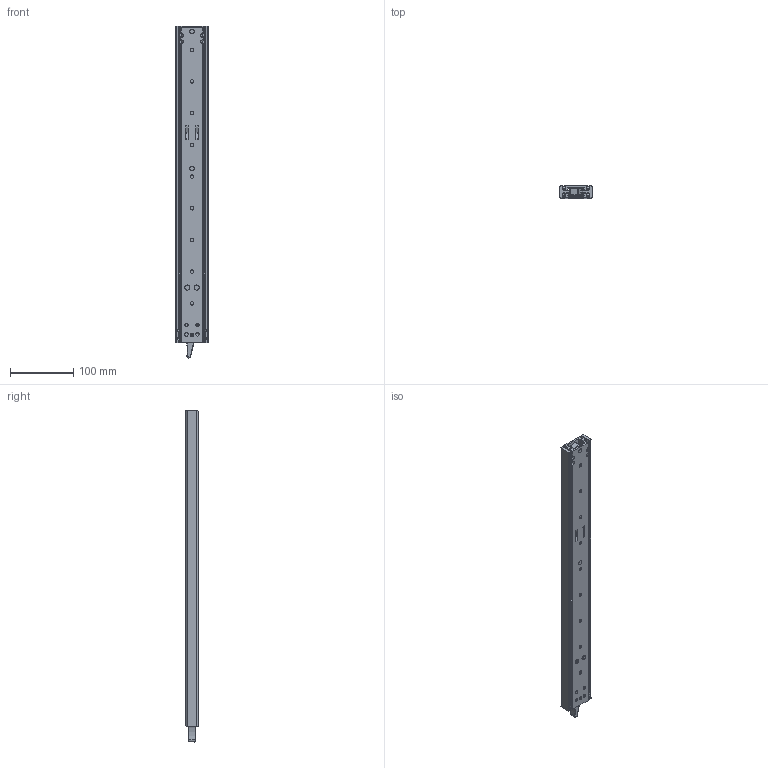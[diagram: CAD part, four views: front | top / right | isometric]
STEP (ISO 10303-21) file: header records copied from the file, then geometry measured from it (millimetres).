
FILE_DESCRIPTION (( 'STEP AP214' ), '1' );
FILE_NAME ('220-500-closed.STEP', '2022-03-25T10:39:42', ( '' ), ( '' ), 'SwSTEP 2.0', 'SolidWorks 2021', '' );
FILE_SCHEMA (( 'AUTOMOTIVE_DESIGN' ));
Length unit declared in the file: millimetre
Products named in the file (12): 61_12719.STEP; 400_000_004.STEP; 61_12276.STEP; 61_12278_14.STEP; 61_13331_Pin Fitted.STEP; 61_12274.STEP; 61_12280_10_Beam Assembled - Stop Raises .STEP; 61_12279_10.STEP; 220-500-closed; 370_002_070.STEP; 61_12282.STEP; 301_000_008_Fitted.STEP
Assembly tree (27 placements, depth 2):
  220-500-closed
    61_12279_10.STEP
    61_12280_10_Beam Assembled - Stop Raises .STEP  x2
    61_13331_Pin Fitted.STEP  x4
    61_12282.STEP
    301_000_008_Fitted.STEP  x2
    61_12274.STEP
    370_002_070.STEP
    61_12719.STEP  x2
    400_000_004.STEP  x8
    61_12278_14.STEP  x4
    61_12276.STEP
Bounding box: 50.7 x 19.75 x 523.69 mm (x, y, z)
Volume: 289471.6 mm3; surface area: 201021.8 mm2
Topology: 27 solids, 27 shells, 1409 faces, 3621 edges, 2260 vertices
Faces by surface type: cylinder 594, plane 299, sphere 289, torus 93, cone 88, bspline 46
Entity records: 30129 total; most frequent: CARTESIAN_POINT 8975, DIRECTION 4564, ORIENTED_EDGE 4250, EDGE_CURVE 2125, AXIS2_PLACEMENT_3D 1848, VERTEX_POINT 1315, CIRCLE 1027, EDGE_LOOP 964
